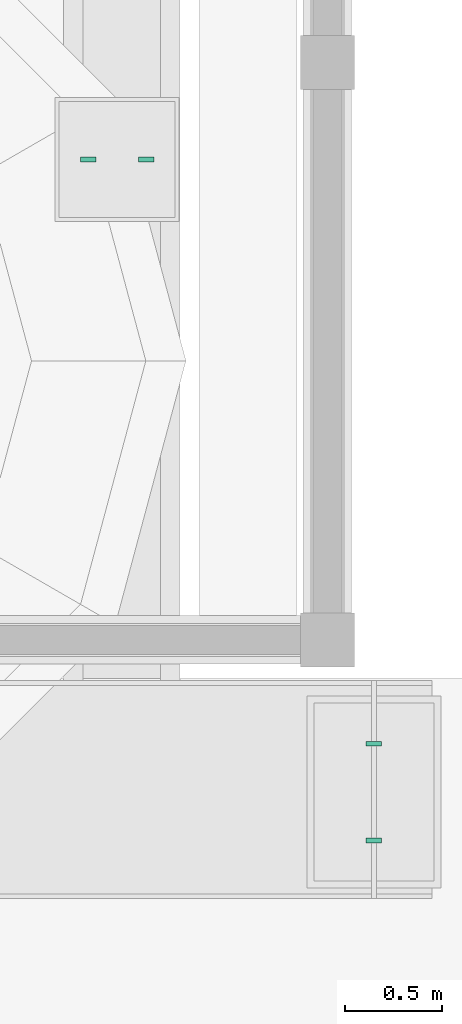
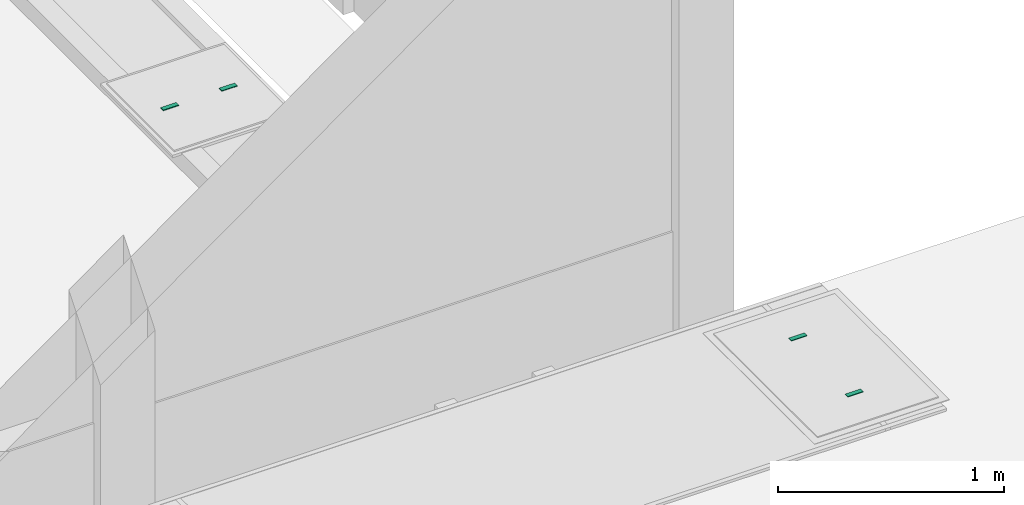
# One storey, part 139 of 177: 4 distribution chamber elements.
"""IFC4 building model written with IfcOpenShell, lengths in metres."""

from ifc_helpers import new_model, si_unit, origin, origin_with_axes, place, context, subcontext, project, spatial, triangles, element, save


model = new_model("IFC4")

# Units and contexts
model_context = context("Model", 3, precision=1e-05, world=origin_with_axes())
body_context = subcontext(model_context, "Body", "Model", "MODEL_VIEW")
ifc_project = project(units=[si_unit("LENGTHUNIT", "METRE"), si_unit("AREAUNIT", "SQUARE_METRE"), si_unit("VOLUMEUNIT", "CUBIC_METRE"), si_unit("PLANEANGLEUNIT", "RADIAN")], contexts=[model_context])

# Site, building, storey
site_placement = place(None, origin_with_axes())
site = spatial("IfcSite", under=ifc_project, at=site_placement, Name="Predio Los Mangos - Morales, San Martín", CompositionType="ELEMENT")
building_placement = place(site_placement, origin())
building = spatial("IfcBuilding", under=site, at=building_placement, Name="Hogar de Refugio Temporal", CompositionType="ELEMENT")
storey_placement = place(building_placement, origin())
storey = spatial("IfcBuildingStorey", under=building, at=storey_placement, Name="NIVEL 1 (NPT +0.00)", CompositionType="ELEMENT", Elevation=0.0)

# Distribution chamber elements
distribution_chamber_element_1_placement = place(storey_placement, origin())
element("IfcDistributionChamberElement", 1, at=distribution_chamber_element_1_placement, inside=storey, Name="tapa_insp_asa", ObjectType="Tapa de inspección", PredefinedType="INSPECTIONCHAMBER", context=body_context, shape_type="Tessellation", body=[
    triangles([(70.485, 20.467, 0.104), (70.565, 20.467, 0.104), (70.565, 20.491, 0.104), (70.485, 20.491, 0.104), (70.485, 20.467, 0.108), (70.565, 20.467, 0.108), (70.565, 20.491, 0.108), (70.485, 20.491, 0.108)], [[1, 4, 3], [1, 3, 2], [5, 6, 7], [5, 7, 8], [1, 2, 6], [1, 6, 5], [2, 3, 7], [2, 7, 6], [3, 4, 8], [3, 8, 7], [4, 1, 5], [4, 5, 8]]),
])
distribution_chamber_element_2_placement = place(storey_placement, origin())
element("IfcDistributionChamberElement", 2, at=distribution_chamber_element_2_placement, inside=storey, Name="tapa_insp_asa", ObjectType="Tapa de inspección", PredefinedType="INSPECTIONCHAMBER", context=body_context, shape_type="Tessellation", body=[
    triangles([(70.785, 20.467, 0.104), (70.865, 20.467, 0.104), (70.865, 20.491, 0.104), (70.785, 20.491, 0.104), (70.785, 20.467, 0.108), (70.865, 20.467, 0.108), (70.865, 20.491, 0.108), (70.785, 20.491, 0.108)], [[1, 4, 3], [1, 3, 2], [5, 6, 7], [5, 7, 8], [1, 2, 6], [1, 6, 5], [2, 3, 7], [2, 7, 6], [3, 4, 8], [3, 8, 7], [4, 1, 5], [4, 5, 8]]),
])
distribution_chamber_element_3_placement = place(storey_placement, origin())
element("IfcDistributionChamberElement", 3, at=distribution_chamber_element_3_placement, inside=storey, Name="tapa_asa", ObjectType="Tapa ciega de registro del colector", PredefinedType="INSPECTIONCHAMBER", context=body_context, shape_type="Tessellation", body=[
    triangles([(71.96, 16.953, 0.168), (72.04, 16.953, 0.168), (72.04, 16.977, 0.168), (71.96, 16.977, 0.168), (71.96, 16.953, 0.172), (72.04, 16.953, 0.172), (72.04, 16.977, 0.172), (71.96, 16.977, 0.172)], [[1, 4, 3], [1, 3, 2], [5, 6, 7], [5, 7, 8], [1, 2, 6], [1, 6, 5], [2, 3, 7], [2, 7, 6], [3, 4, 8], [3, 8, 7], [4, 1, 5], [4, 5, 8]]),
])
distribution_chamber_element_4_placement = place(storey_placement, origin())
element("IfcDistributionChamberElement", 4, at=distribution_chamber_element_4_placement, inside=storey, Name="tapa_asa", ObjectType="Tapa ciega de registro del colector", PredefinedType="INSPECTIONCHAMBER", context=body_context, shape_type="Tessellation", body=[
    triangles([(71.96, 17.453, 0.168), (72.04, 17.453, 0.168), (72.04, 17.477, 0.168), (71.96, 17.477, 0.168), (71.96, 17.453, 0.172), (72.04, 17.453, 0.172), (72.04, 17.477, 0.172), (71.96, 17.477, 0.172)], [[1, 4, 3], [1, 3, 2], [5, 6, 7], [5, 7, 8], [1, 2, 6], [1, 6, 5], [2, 3, 7], [2, 7, 6], [3, 4, 8], [3, 8, 7], [4, 1, 5], [4, 5, 8]]),
])

save(model, "model.ifc")
